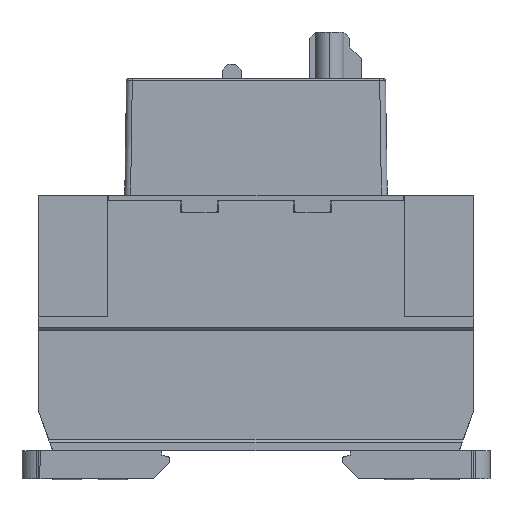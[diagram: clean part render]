
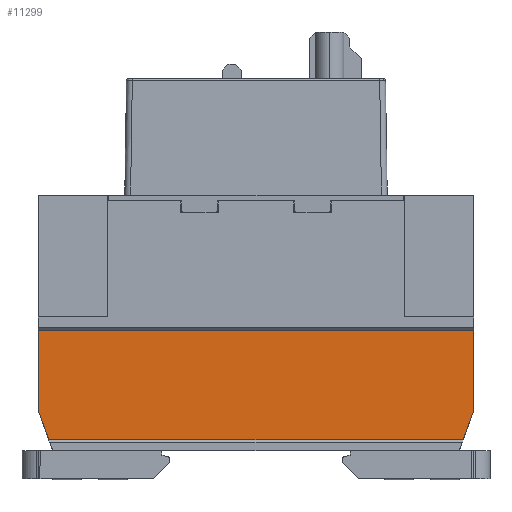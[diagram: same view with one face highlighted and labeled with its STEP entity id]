
A CAD part, left-side view. The second image highlights one B-rep face of the part: STEP entity #11299.
In plain terms, the highlighted planar face has unit normal (-1, 0, 0).
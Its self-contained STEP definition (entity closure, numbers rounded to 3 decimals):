
#385 = EDGE_CURVE ( 'NONE', #2977, #8948, #3515, .T. ) ;
#754 = LINE ( 'NONE', #9982, #951 ) ;
#915 = CARTESIAN_POINT ( 'NONE',  ( 0.45, 77.8, 25.75 ) ) ;
#951 = VECTOR ( 'NONE', #5235, 1000. ) ;
#1527 = DIRECTION ( 'NONE',  ( 1., 0., 0. ) ) ;
#1626 = CARTESIAN_POINT ( 'NONE',  ( 0.45, 2.8, 25.75 ) ) ;
#2517 = CARTESIAN_POINT ( 'NONE',  ( 0.45, 2.8, 11.869 ) ) ;
#2558 = EDGE_CURVE ( 'NONE', #6759, #12477, #9604, .T. ) ;
#2802 = VECTOR ( 'NONE', #12360, 1000. ) ;
#2977 = VERTEX_POINT ( 'NONE', #2517 ) ;
#3324 = ORIENTED_EDGE ( 'NONE', *, *, #385, .T. ) ;
#3515 = LINE ( 'NONE', #19161, #19857 ) ;
#3573 = VERTEX_POINT ( 'NONE', #915 ) ;
#4247 = EDGE_CURVE ( 'NONE', #6759, #11227, #18486, .T. ) ;
#5235 = DIRECTION ( 'NONE',  ( 0., 0.342, -0.94 ) ) ;
#5624 = ORIENTED_EDGE ( 'NONE', *, *, #4247, .T. ) ;
#5670 = ORIENTED_EDGE ( 'NONE', *, *, #2558, .F. ) ;
#6661 = DIRECTION ( 'NONE',  ( 0., 0., 1. ) ) ;
#6759 = VERTEX_POINT ( 'NONE', #7823 ) ;
#6829 = CARTESIAN_POINT ( 'NONE',  ( 0.45, 77.8, 11.869 ) ) ;
#7823 = CARTESIAN_POINT ( 'NONE',  ( 0.45, 75.973, 6.85 ) ) ;
#7858 = PLANE ( 'NONE',  #8329 ) ;
#8054 = DIRECTION ( 'NONE',  ( 0., 0.342, 0.94 ) ) ;
#8329 = AXIS2_PLACEMENT_3D ( 'NONE', #20324, #1527, #15344 ) ;
#8948 = VERTEX_POINT ( 'NONE', #1626 ) ;
#9604 = LINE ( 'NONE', #12916, #15671 ) ;
#9982 = CARTESIAN_POINT ( 'NONE',  ( 0.45, 5.3, 5. ) ) ;
#10260 = ORIENTED_EDGE ( 'NONE', *, *, #15842, .F. ) ;
#11227 = VERTEX_POINT ( 'NONE', #11709 ) ;
#11299 = ADVANCED_FACE ( 'NONE', ( #17094 ), #7858, .F. ) ;
#11590 = LINE ( 'NONE', #14912, #12712 ) ;
#11709 = CARTESIAN_POINT ( 'NONE',  ( 0.45, 4.627, 6.85 ) ) ;
#11716 = ORIENTED_EDGE ( 'NONE', *, *, #18700, .F. ) ;
#12250 = CARTESIAN_POINT ( 'NONE',  ( 0.45, 77.8, 6.85 ) ) ;
#12360 = DIRECTION ( 'NONE',  ( 0., -1., 0. ) ) ;
#12477 = VERTEX_POINT ( 'NONE', #6829 ) ;
#12712 = VECTOR ( 'NONE', #16467, 1000. ) ;
#12771 = LINE ( 'NONE', #19109, #14362 ) ;
#12916 = CARTESIAN_POINT ( 'NONE',  ( 0.45, 75.3, 5. ) ) ;
#14362 = VECTOR ( 'NONE', #6661, 1000. ) ;
#14912 = CARTESIAN_POINT ( 'NONE',  ( 0.45, 77.8, 25.75 ) ) ;
#15344 = DIRECTION ( 'NONE',  ( 0., 0., -1. ) ) ;
#15671 = VECTOR ( 'NONE', #8054, 1000. ) ;
#15842 = EDGE_CURVE ( 'NONE', #2977, #11227, #754, .T. ) ;
#16467 = DIRECTION ( 'NONE',  ( 0., -1., 0. ) ) ;
#17094 = FACE_OUTER_BOUND ( 'NONE', #18679, .T. ) ;
#17152 = ORIENTED_EDGE ( 'NONE', *, *, #19160, .F. ) ;
#18486 = LINE ( 'NONE', #12250, #2802 ) ;
#18679 = EDGE_LOOP ( 'NONE', ( #3324, #17152, #11716, #5670, #5624, #10260 ) ) ;
#18700 = EDGE_CURVE ( 'NONE', #12477, #3573, #12771, .T. ) ;
#19065 = DIRECTION ( 'NONE',  ( 0., 0., 1. ) ) ;
#19109 = CARTESIAN_POINT ( 'NONE',  ( 0.45, 77.8, 6.85 ) ) ;
#19160 = EDGE_CURVE ( 'NONE', #3573, #8948, #11590, .T. ) ;
#19161 = CARTESIAN_POINT ( 'NONE',  ( 0.45, 2.8, 6.85 ) ) ;
#19857 = VECTOR ( 'NONE', #19065, 1000. ) ;
#20324 = CARTESIAN_POINT ( 'NONE',  ( 0.45, 77.8, 6.85 ) ) ;
